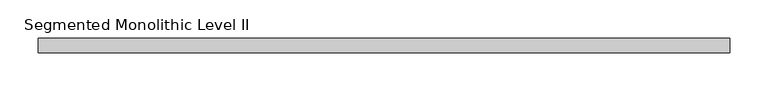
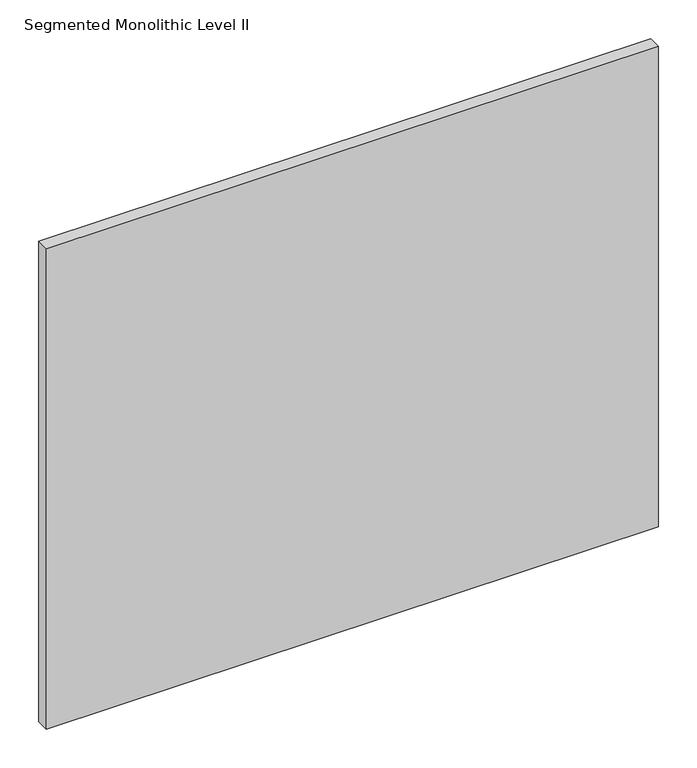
"""IFC4 building model written with IfcOpenShell, lengths in millimetres: proxy geometry, Panel-Fascia-Teknion-Altos-Standard : Segmented Monolithic Level II."""

from ifc_helpers import new_model, si_unit, frame, origin, place, context, project, spatial, polyline, outline, extrude, source, transform, mapped, element, save


def segmented_monolithic_level_ii_44e4ae8f(model_context):
    return source(origin(), model_context, "Body", "SweptSolid", [
        extrude(outline(polyline([(454.0305563, -9.525), (-454.0305562, -9.525), (-454.0305562, 9.525), (454.0305563, 9.525), (454.0305563, -9.525)])), frame((0.0, 0.0, 3.175), z_axis=(0.0, 0.0, 1.0), x_axis=(1.0, 0.0, 0.0)), (0.0, 0.0, 1.0), 753.618),
    ])


if __name__ == "__main__":
    model = new_model("IFC4")
    model_context = context("Model", 3, world=origin())
    ifc_project = project(units=[si_unit("LENGTHUNIT", "METRE", prefix="MILLI")], contexts=[model_context])
    site = spatial("IfcSite", under=ifc_project)
    building = spatial("IfcBuilding", under=site)
    placement = place(None, origin())
    segmented_monolithic_level_ii_shape = segmented_monolithic_level_ii_44e4ae8f(model_context)
    element("IfcBuildingElementProxy", 1, Name="Panel-Fascia-Teknion-Altos-Standard : Segmented Monolithic Level II", ObjectType="Panel-Fascia-Teknion-Altos-Standard : Segmented Monolithic Level II", at=placement, inside=building, context=model_context, shape_type="MappedRepresentation", body=[
        mapped(segmented_monolithic_level_ii_shape, transform((0.0, 0.0, 0.0), x_axis=(1.0, 0.0, 0.0), y_axis=(0.0, 1.0, 0.0), z_axis=(0.0, 0.0, 1.0))),
    ])
    save(model, "model.ifc")
